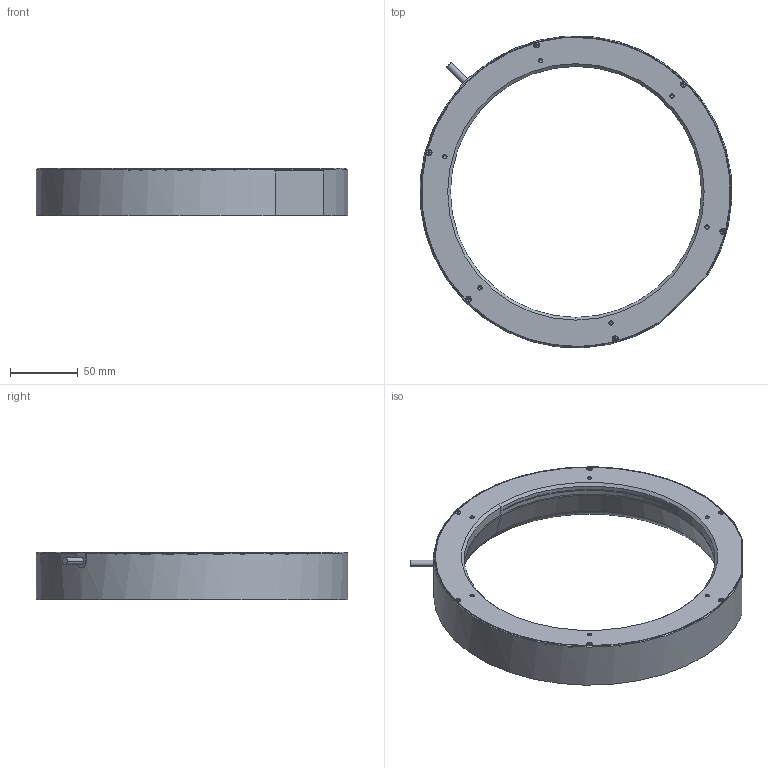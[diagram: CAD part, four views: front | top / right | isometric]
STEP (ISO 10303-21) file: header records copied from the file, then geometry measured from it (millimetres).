
FILE_DESCRIPTION((''),'2;1');
FILE_NAME('MV-LRDS-H-230-15-W','2022-09-02T17:03:58',('qiaoxuan5'),(''),'CREO PARAMETRIC BY PTC INC, 2020044','CREO PARAMETRIC BY PTC INC, 2020044','');
FILE_SCHEMA(('CONFIG_CONTROL_DESIGN'));
Length unit declared in the file: metre
Products named in the file (1): MV-LRDS-H-230-15-W
Bounding box: 229.62 x 229.62 x 35 mm (x, y, z)
Volume: 447106.2 mm3; surface area: 110107.7 mm2
Topology: 1 solids, 25 shells, 733 faces, 1736 edges, 1012 vertices
Faces by surface type: plane 363, cylinder 202, cone 130, torus 32, sphere 6
Entity records: 20709 total; most frequent: CARTESIAN_POINT 3952, DIRECTION 3580, ORIENTED_EDGE 3388, EDGE_CURVE 1694, AXIS2_PLACEMENT_3D 1287, VERTEX_POINT 1012, VECTOR 1006, LINE 1006
